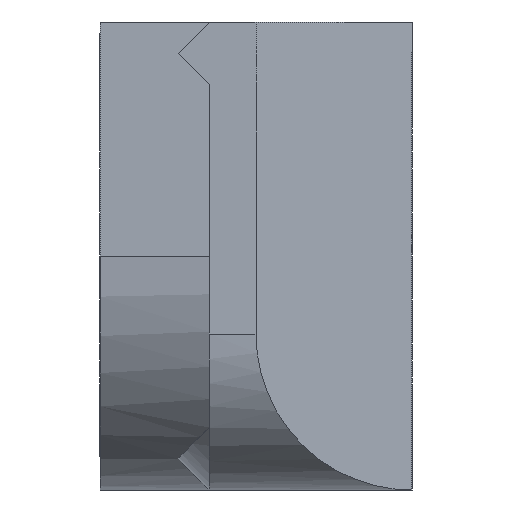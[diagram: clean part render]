
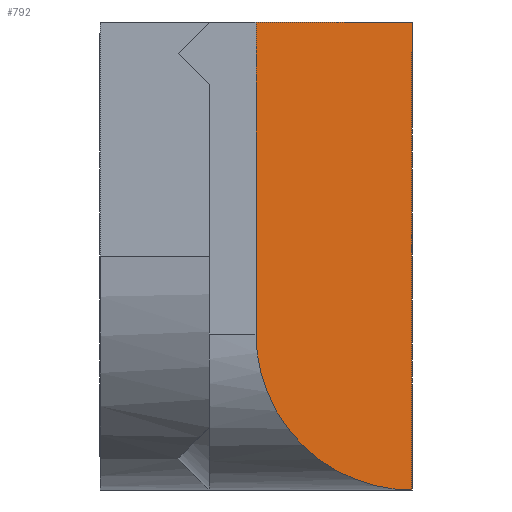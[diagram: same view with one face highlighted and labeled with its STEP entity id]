
A CAD part, left-side view. The second image highlights one B-rep face of the part: STEP entity #792.
In plain terms, the highlighted planar face has unit normal (-0.707, -0.707, 0).
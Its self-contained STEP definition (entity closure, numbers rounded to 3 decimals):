
#38 = CARTESIAN_POINT ( 'NONE',  ( 0.828, -1.428, 0. ) ) ;
#43 = AXIS2_PLACEMENT_3D ( 'NONE', #637, #550, #484 ) ;
#60 = VECTOR ( 'NONE', #689, 1000. ) ;
#93 = CARTESIAN_POINT ( 'NONE',  ( 0., -0.6, 6. ) ) ;
#102 = VERTEX_POINT ( 'NONE', #256 ) ;
#112 = EDGE_CURVE ( 'NONE', #824, #569, #801, .T. ) ;
#113 = PLANE ( 'NONE',  #43 ) ;
#114 = EDGE_CURVE ( 'NONE', #102, #763, #441, .T. ) ;
#178 = DIRECTION ( 'NONE',  ( 0.707, -0.707, 0. ) ) ;
#187 = ORIENTED_EDGE ( 'NONE', *, *, #114, .T. ) ;
#252 = CARTESIAN_POINT ( 'NONE',  ( 2., -2.6, 6. ) ) ;
#256 = CARTESIAN_POINT ( 'NONE',  ( 0., -0.6, 2. ) ) ;
#274 = EDGE_CURVE ( 'NONE', #824, #102, #877, .T. ) ;
#312 = CARTESIAN_POINT ( 'NONE',  ( 2., -2.6, 6. ) ) ;
#325 = CARTESIAN_POINT ( 'NONE',  ( 0., -0.6, 0.828 ) ) ;
#364 = VECTOR ( 'NONE', #178, 1000. ) ;
#392 = CARTESIAN_POINT ( 'NONE',  ( 0., -0.6, 6. ) ) ;
#441 =( BOUNDED_CURVE ( )  B_SPLINE_CURVE ( 3, ( #711, #325, #38, #483 ),
 .UNSPECIFIED., .F., .F. ) 
 B_SPLINE_CURVE_WITH_KNOTS ( ( 4, 4 ),
 ( 3.142, 4.712 ),
 .UNSPECIFIED. ) 
 CURVE ( )  GEOMETRIC_REPRESENTATION_ITEM ( )  RATIONAL_B_SPLINE_CURVE ( ( 1., 0.805, 0.805, 1. ) ) 
 REPRESENTATION_ITEM ( '' )  );
#483 = CARTESIAN_POINT ( 'NONE',  ( 2., -2.6, 0. ) ) ;
#484 = DIRECTION ( 'NONE',  ( -0.707, 0.707, 0. ) ) ;
#487 = EDGE_LOOP ( 'NONE', ( #599, #187, #498, #645 ) ) ;
#498 = ORIENTED_EDGE ( 'NONE', *, *, #832, .F. ) ;
#550 = DIRECTION ( 'NONE',  ( 0.707, 0.707, 0. ) ) ;
#569 = VERTEX_POINT ( 'NONE', #312 ) ;
#599 = ORIENTED_EDGE ( 'NONE', *, *, #274, .T. ) ;
#637 = CARTESIAN_POINT ( 'NONE',  ( 2., -2.6, 6. ) ) ;
#641 = VECTOR ( 'NONE', #907, 1000. ) ;
#645 = ORIENTED_EDGE ( 'NONE', *, *, #112, .F. ) ;
#665 = LINE ( 'NONE', #902, #641 ) ;
#689 = DIRECTION ( 'NONE',  ( 0., 0., -1. ) ) ;
#691 = FACE_OUTER_BOUND ( 'NONE', #487, .T. ) ;
#711 = CARTESIAN_POINT ( 'NONE',  ( 0., -0.6, 2. ) ) ;
#763 = VERTEX_POINT ( 'NONE', #925 ) ;
#792 = ADVANCED_FACE ( 'NONE', ( #691 ), #113, .F. ) ;
#801 = LINE ( 'NONE', #252, #364 ) ;
#824 = VERTEX_POINT ( 'NONE', #392 ) ;
#832 = EDGE_CURVE ( 'NONE', #569, #763, #665, .T. ) ;
#877 = LINE ( 'NONE', #93, #60 ) ;
#902 = CARTESIAN_POINT ( 'NONE',  ( 2., -2.6, 6. ) ) ;
#907 = DIRECTION ( 'NONE',  ( 0., 0., -1. ) ) ;
#925 = CARTESIAN_POINT ( 'NONE',  ( 2., -2.6, 0. ) ) ;
